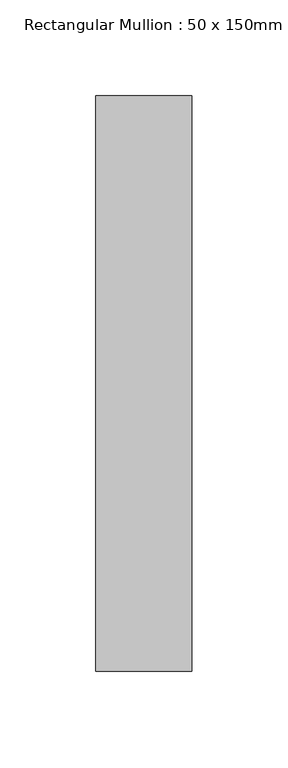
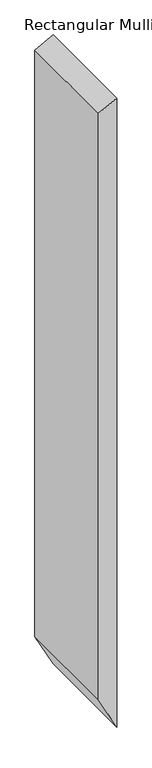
"""IFC4 building model written with IfcOpenShell, lengths in millimetres: member geometry, Rectangular Mullion : 50 x 150mm."""

from ifc_helpers import new_model, si_unit, frame, origin, place, context, project, spatial, polyline, outline, extrude, source, transform, mapped, element, save


def rectangular_mullion_50_x_150mm_2a46035e(model_context):
    return source(origin(), model_context, "Body", "SweptSolid", [
        extrude(outline(polyline([(0.0, 0.0), (-26.0283525, -50.0), (-1716.8389081, -50.0), (-1812.8880144, 0.0), (0.0, 0.0)])), frame((0.0, -125.0, 0.0), z_axis=(0.0, 1.0, 0.0), x_axis=(0.0, 0.0, 1.0)), (0.0, 0.0, 1.0), 300.0),
    ])


if __name__ == "__main__":
    model = new_model("IFC4")
    model_context = context("Model", 3, world=origin())
    ifc_project = project(units=[si_unit("LENGTHUNIT", "METRE", prefix="MILLI")], contexts=[model_context])
    site = spatial("IfcSite", under=ifc_project)
    building = spatial("IfcBuilding", under=site)
    placement = place(None, origin())
    rectangular_mullion_50_x_150mm_shape = rectangular_mullion_50_x_150mm_2a46035e(model_context)
    element("IfcMember", 1, ObjectType="Rectangular Mullion : 50 x 150mm", at=placement, inside=building, context=model_context, shape_type="MappedRepresentation", body=[
        mapped(rectangular_mullion_50_x_150mm_shape, transform((0.0, 0.0, 0.0), x_axis=(1.0, 0.0, 0.0), y_axis=(0.0, 1.0, 0.0), z_axis=(0.0, 0.0, 1.0))),
    ])
    save(model, "model.ifc")
